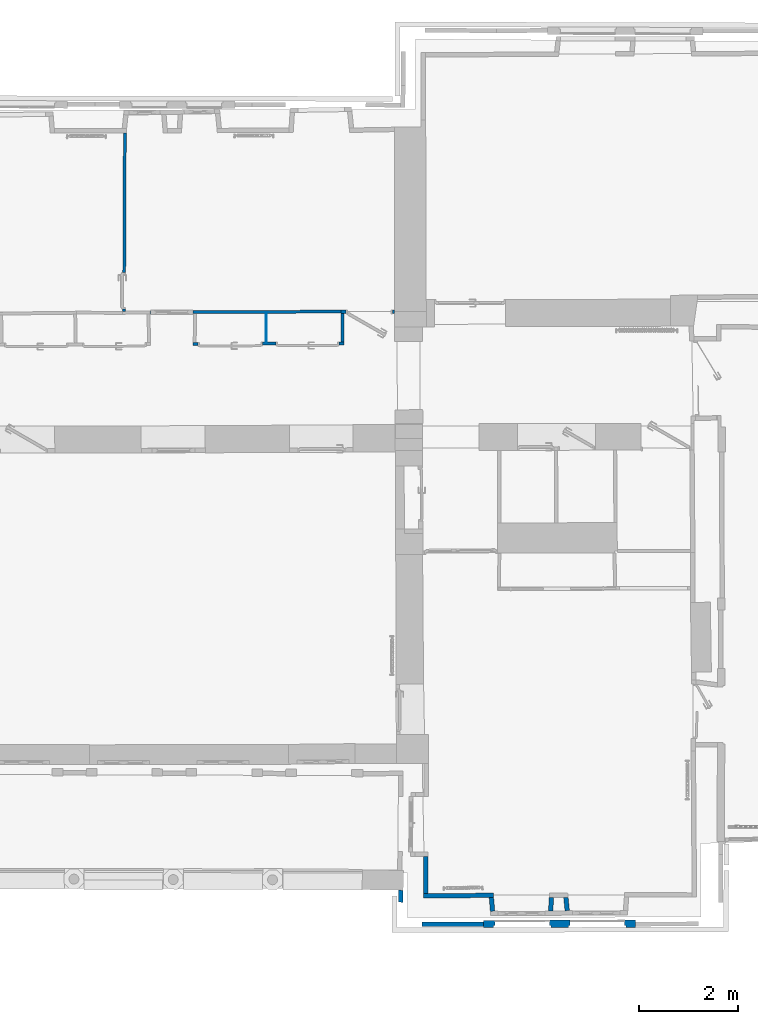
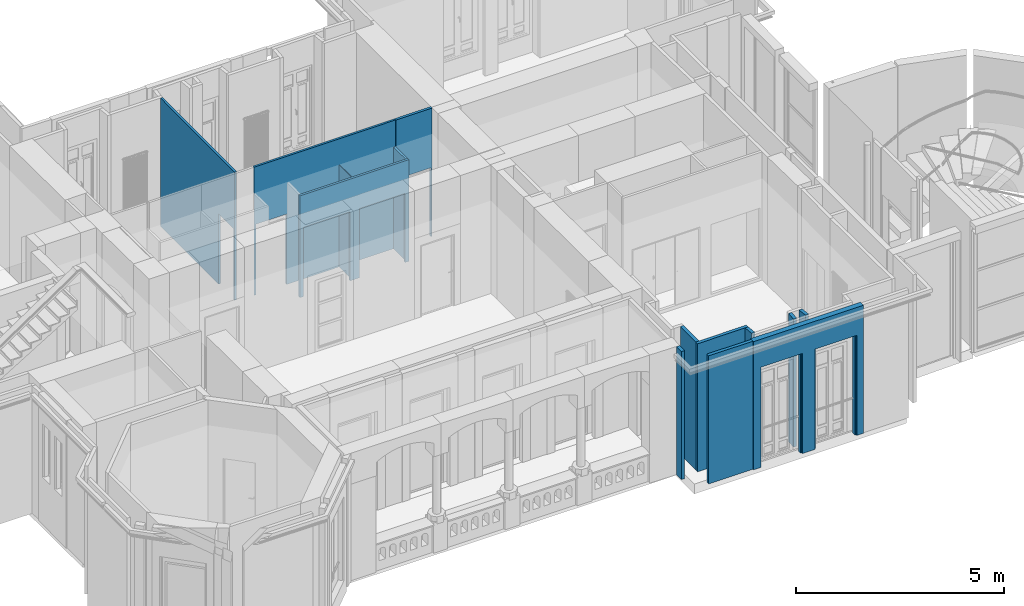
# One storey, part 10 of 66: 14 walls, 7 openings.
"""IFC2X3 building model written with IfcOpenShell, lengths in centimetres."""

from ifc_helpers import new_model, entity, si_unit, converted_unit, direction, frame, origin, origin_with_axes, origin_2d_with_axis, place, context, subcontext, project, spatial, polyline, rectangle, outline, extrude, clip, bounded_halfspace, faceted_brep, shape, material, layer, layer_set, layer_usage, type_object, element, save


model = new_model("IFC2X3")

# Units and contexts
model_context = context("Model", 3, precision=0.0001, world=origin(), true_north=direction((0.225632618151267, 0.974212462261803, 0.0)))
body_context = subcontext(model_context, "Body", "Model", "MODEL_VIEW")
footprint_context = subcontext(model_context, "FootPrint", "Model", "MODEL_VIEW")
profile_context = subcontext(model_context, "Profile", "Model", "MODEL_VIEW")
ifc_project = project(units=[si_unit("LENGTHUNIT", "METRE", prefix="CENTI"), si_unit("AREAUNIT", "SQUARE_METRE", prefix="CENTI"), si_unit("VOLUMEUNIT", "CUBIC_METRE", prefix="CENTI"), converted_unit("PLANEANGLEUNIT", "DEGREE", entity("IfcRatioMeasure", 0.0174532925), si_unit("PLANEANGLEUNIT", "RADIAN"), dimensions=[0, 0, 0, 0, 0, 0, 0])], contexts=[model_context])

# Site, building, storey
site_placement = place(None, origin_with_axes())
site = spatial("IfcSite", under=ifc_project, at=site_placement, Name="Default Site", CompositionType="ELEMENT")
building_placement = place(site_placement, origin_with_axes())
building = spatial("IfcBuilding", under=site, at=building_placement, Name="Default Building", CompositionType="ELEMENT")
storey_placement = place(building_placement, frame((0.0, 0.0, 477.795358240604), z_axis=(0.0, 0.0, 1.0), x_axis=(1.0, 0.0, 0.0)))
storey = spatial("IfcBuildingStorey", under=building, at=storey_placement, Name="Niveau 1", CompositionType="ELEMENT", Elevation=477.795358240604)

# Walls
ifc_material = material(Name="<aucun>")
ifc_layer_1 = layer(ifc_material, 9.0)
ifc_layer_set_1 = layer_set([ifc_layer_1], Name="default")
ifc_layer_usage_1 = layer_usage(ifc_layer_set_1, "AXIS2", "POSITIVE", -4.5)
wall_type_1 = type_object("IfcWallType", Name="default 90", PredefinedType="NOTDEFINED", material=ifc_layer_set_1)
wall_1_placement = place(storey_placement, frame((547.729061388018, -1016.48681909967, 0.0128503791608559), z_axis=(0.0, 0.0, 1.0), x_axis=(0.0629303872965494, 0.99801791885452, 0.0)))
element("IfcWallStandardCase", 1, at=wall_1_placement, inside=storey, type_object=wall_type_1, material=ifc_layer_usage_1, Name="Enveloppe 776368", context=body_context, shape_type="SweptSolid", body=[
    extrude(outline(polyline([(-0.0638673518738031, 4.50000000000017), (0.544240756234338, -4.4999999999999), (27.6058031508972, -4.4999999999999), (26.9976950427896, 4.50000000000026), (-0.0638673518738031, 4.50000000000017)])), frame((0.0, 0.0, 1.77635683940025e-13), z_axis=(0.0, 0.0, 1.0), x_axis=(1.0, 0.0, 0.0)), (0.0, 0.0, 1.0), 376.102165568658),
])
ifc_layer_usage_2 = layer_usage(ifc_layer_set_1, "AXIS2", "POSITIVE", -4.5)
wall_2_placement = place(storey_placement, frame((581.088580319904, -1016.52098470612, 0.0128503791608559), z_axis=(0.0, 0.0, 1.0), x_axis=(-0.0986254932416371, 0.995124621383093, 0.0)))
element("IfcWallStandardCase", 2, at=wall_2_placement, inside=storey, type_object=wall_type_1, material=ifc_layer_usage_2, Name="Enveloppe 776312", context=body_context, shape_type="SweptSolid", body=[
    extrude(outline(polyline([(27.9716388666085, 4.50000000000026), (0.851161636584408, 4.49999999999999), (-1.77635683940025e-13, -4.49999999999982), (27.1204772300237, -4.49999999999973), (27.9716388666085, 4.50000000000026)])), frame((0.0, 0.0, 8.88178419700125e-14), z_axis=(0.0, 0.0, 1.0), x_axis=(1.0, 0.0, 0.0)), (0.0, 0.0, 1.0), 376.102165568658),
])
ifc_layer_usage_3 = layer_usage(ifc_layer_set_1, "AXIS2", "POSITIVE", -4.5)
wall_3_placement = place(storey_placement, frame((296.704901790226, -981.360360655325, 0.0128503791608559), z_axis=(0.0, 0.0, 1.0), x_axis=(0.0028780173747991, 0.999995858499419, 0.0)))
element("IfcWallStandardCase", 3, at=wall_3_placement, inside=storey, type_object=wall_type_1, material=ifc_layer_usage_3, Name="Enveloppe 777076", context=body_context, shape_type="SweptSolid", body=[
    extrude(outline(polyline([(-0.0474887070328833, 4.49999999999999), (0.0188519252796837, -4.50000000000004), (74.4033617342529, -4.50000000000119), (74.4853848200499, 4.49999999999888), (-0.0474887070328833, 4.49999999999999)])), frame((0.0, 0.0, 1.77635683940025e-13), z_axis=(0.0, 0.0, 1.0), x_axis=(1.0, 0.0, 0.0)), (0.0, 0.0, 1.0), 376.102165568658),
])
ifc_layer_usage_4 = layer_usage(ifc_layer_set_1, "AXIS2", "POSITIVE", -4.5)
wall_4_placement = place(storey_placement, frame((431.078634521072, -1018.13547040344, 0.0128503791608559), z_axis=(0.0, 0.0, 1.0), x_axis=(-0.0854648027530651, 0.996341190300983, 0.0)))
element("IfcWallStandardCase", 4, at=wall_4_placement, inside=storey, type_object=wall_type_1, material=ifc_layer_usage_4, Name="Enveloppe 776051", context=body_context, shape_type="SweptSolid", body=[
    extrude(outline(polyline([(28.8232872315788, 4.50000000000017), (1.00301488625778, 4.49999999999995), (1.0030148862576, -4.50000000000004), (28.0919987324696, -4.49999999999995), (28.8232872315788, 4.50000000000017)])), frame((0.0, 0.0, 8.88178419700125e-14), z_axis=(0.0, 0.0, 1.0), x_axis=(1.0, 0.0, 0.0)), (0.0, 0.0, 1.0), 376.102165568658),
])
ifc_layer_usage_5 = layer_usage(ifc_layer_set_1, "AXIS2", "POSITIVE", -4.5)
wall_5_placement = place(storey_placement, frame((301.225155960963, -985.854414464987, 0.0128503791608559), z_axis=(0.0, 0.0, 1.0), x_axis=(0.999989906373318, 0.00449301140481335, 0.0)))
element("IfcWallStandardCase", 5, at=wall_5_placement, inside=storey, type_object=wall_type_1, material=ifc_layer_usage_5, Name="Enveloppe 776015", context=body_context, shape_type="SweptSolid", body=[
    extrude(outline(polyline([(-9.06658513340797, -4.49999999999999), (131.917249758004, -4.50000000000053), (131.185961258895, 4.49999999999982), (-9.00024450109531, 4.49999999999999), (-9.06658513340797, -4.49999999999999)])), frame((0.0, 0.0, 8.88178419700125e-14), z_axis=(0.0, 0.0, 1.0), x_axis=(1.0, 0.0, 0.0)), (0.0, 0.0, 1.0), 376.102165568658),
])

# Wall, opening
ifc_layer_2 = layer(ifc_material, 6.0)
ifc_layer_set_2 = layer_set([ifc_layer_2], Name="default")
ifc_layer_usage_6 = layer_usage(ifc_layer_set_2, "AXIS2", "POSITIVE", -3.0)
wall_type_2 = type_object("IfcWallType", Name="default 60", PredefinedType="NOTDEFINED", material=ifc_layer_set_2)
wall_6_placement = place(storey_placement, frame((-309.806494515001, 188.988568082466, 0.0128503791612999), z_axis=(0.0, 0.0, 1.0), x_axis=(0.00438806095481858, 0.999990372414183, 0.0)))
wall_6 = element("IfcWallStandardCase", 6, at=wall_6_placement, inside=storey, type_object=wall_type_2, material=ifc_layer_usage_6, Name="Enveloppe 92513", context=body_context, shape_type="SweptSolid", body=[
    extrude(outline(polyline([(-0.0192172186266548, 2.99999999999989), (-0.0096393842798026, 0.00960856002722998), (0.0595995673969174, -3.00000000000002), (358.531062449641, -2.99999999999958), (358.492070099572, 3.00000000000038), (-0.0192172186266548, 2.99999999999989)])), origin_with_axes(), (0.0, 0.0, 1.0), 376.102165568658),
])
opening_1_placement = place(wall_6_placement, frame((4.77238262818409, 0.0, 0.0), z_axis=(0.0, 0.0, 1.0), x_axis=(1.0, 1.24553145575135e-15, 0.0)))
cartesian_point_1 = entity("IfcCartesianPoint", [0.0, 0.0, 207.0])
cartesian_point_2 = entity("IfcCartesianPoint", [73.0410630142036, 2.99999999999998])
element("IfcOpeningElement", 7, at=opening_1_placement, cuts=wall_6, Name="4294966335_11", ObjectType="Opening", shapes=[
    shape(body_context, "Body", "SweptSolid", [extrude(outline(polyline([(0.0, 207.0), (0.0, 0.0), (73.0410630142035, 0.0), (73.0410630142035, 207.0), (0.0, 207.0)])), frame((0.0, 13.0, 0.0), z_axis=(0.0, -1.0, 0.0), x_axis=(1.0, 0.0, 0.0)), (0.0, 0.0, 1.0), 26.0)]),
    shape(profile_context, "Profile", "GeometricCurveSet", [entity("IfcGeometricCurveSet", [entity("IfcPolyline", [cartesian_point_1, entity("IfcCartesianPoint", [0.0, 0.0, 0.0]), entity("IfcCartesianPoint", [73.0410630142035, -4.44089209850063e-14, 0.0]), entity("IfcCartesianPoint", [73.0410630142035, -4.44089209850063e-14, 207.0]), cartesian_point_1])])]),
    shape(footprint_context, "FootPrint", "GeometricCurveSet", [entity("IfcGeometricCurveSet", [entity("IfcPolyline", [cartesian_point_2, entity("IfcCartesianPoint", [6.66133814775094e-14, 2.99999999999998]), entity("IfcCartesianPoint", [-2.22044604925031e-14, -2.99999999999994]), entity("IfcCartesianPoint", [73.0410630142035, -2.99999999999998]), cartesian_point_2])])]),
])

# Wall
ifc_layer_usage_7 = layer_usage(ifc_layer_set_2, "AXIS2", "POSITIVE", -3.0)
wall_7_placement = place(storey_placement, frame((129.375968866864, 121.405822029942, 0.0128503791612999), z_axis=(0.0, 0.0, 1.0), x_axis=(-0.000133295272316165, 0.999999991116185, 0.0)))
element("IfcWallStandardCase", 8, at=wall_7_placement, inside=storey, type_object=wall_type_2, material=ifc_layer_usage_7, Name="Enveloppe 104149", context=body_context, shape_type="SweptSolid", body=[
    extrude(outline(polyline([(5.97754900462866, 3.00000000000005), (6.0000421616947, -3.0), (63.0059550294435, -2.99999999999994), (62.9834618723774, 3.00000000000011), (5.97754900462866, 3.00000000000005)])), frame((0.0, 0.0, -2.66453525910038e-13), z_axis=(0.0, 0.0, 1.0), x_axis=(1.0, 0.0, 0.0)), (0.0, 0.0, 1.0), 298.702165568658),
])

# Wall, openings
ifc_layer_usage_8 = layer_usage(ifc_layer_set_2, "AXIS2", "POSITIVE", -3.0)
wall_8_placement = place(storey_placement, frame((-166.397739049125, 123.246358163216, 0.0128503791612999), z_axis=(0.0, 0.0, 1.0), x_axis=(0.99999246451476, 0.00388212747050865, 0.0)))
wall_8 = element("IfcWallStandardCase", 9, at=wall_8_placement, inside=storey, type_object=wall_type_2, material=ifc_layer_usage_8, Name="Enveloppe 104140", context=body_context, shape_type="SweptSolid", body=[
    extrude(outline(polyline([(141.56208561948, 2.99999999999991), (-4.52777410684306, 2.99999999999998), (-4.6616459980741, -3.0), (141.56208561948, -3.00000000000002), (298.763513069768, -2.9999968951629), (298.786805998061, 2.99999999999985), (141.56208561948, 2.99999999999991)])), frame((0.0, 0.0, -1.77635683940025e-13), z_axis=(0.0, 0.0, 1.0), x_axis=(1.0, 0.0, 0.0)), (0.0, 0.0, 1.0), 298.702165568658),
])
opening_2_placement = place(wall_8_placement, frame((161.704927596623, -5.6843418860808e-14, -3.5527136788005e-13), z_axis=(0.0, 0.0, 1.0), x_axis=(-1.0, 4.56665955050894e-16, 0.0)))
cartesian_point_3 = entity("IfcCartesianPoint", [-2.08166817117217e-14, 0.0, 203.1])
cartesian_point_4 = entity("IfcCartesianPoint", [-126.516137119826, -3.00000000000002])
element("IfcOpeningElement", 10, at=opening_2_placement, cuts=wall_8, Name="4294966401_11", ObjectType="Opening", shapes=[
    shape(body_context, "Body", "SweptSolid", [extrude(outline(polyline([(1.94289029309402e-14, 203.1), (-2.77555756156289e-15, 0.0), (126.516137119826, 0.0), (126.516137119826, 203.1), (1.94289029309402e-14, 203.1)])), frame((0.0, -13.0, 0.0), z_axis=(0.0, 1.0, 0.0), x_axis=(-1.0, 0.0, 0.0)), (0.0, 0.0, 1.0), 26.0)]),
    shape(profile_context, "Profile", "GeometricCurveSet", [entity("IfcGeometricCurveSet", [entity("IfcPolyline", [cartesian_point_3, entity("IfcCartesianPoint", [1.38777878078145e-15, 0.0, 0.0]), entity("IfcCartesianPoint", [-126.516137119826, -2.22044604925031e-14, 0.0]), entity("IfcCartesianPoint", [-126.516137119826, -2.22044604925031e-14, 203.1]), cartesian_point_3])])]),
    shape(footprint_context, "FootPrint", "GeometricCurveSet", [entity("IfcGeometricCurveSet", [entity("IfcPolyline", [cartesian_point_4, entity("IfcCartesianPoint", [2.77555756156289e-15, -3.00000000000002]), entity("IfcCartesianPoint", [0.0, 2.99999999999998]), entity("IfcCartesianPoint", [-126.516137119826, 2.99999999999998]), cartesian_point_4])])]),
])
opening_3_placement = place(wall_8_placement, frame((4.89621919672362, -1.4210854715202e-14, 2.66453525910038e-13), z_axis=(0.0, 0.0, 1.0), x_axis=(-1.0, 2.86663054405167e-16, 0.0)))
cartesian_point_5 = entity("IfcCartesianPoint", [-2.22044604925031e-14, -2.22044604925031e-14, 203.1])
cartesian_point_6 = entity("IfcCartesianPoint", [-130.0, -3.00000000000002])
element("IfcOpeningElement", 11, at=opening_3_placement, cuts=wall_8, Name="4294966399_11", ObjectType="Opening", shapes=[
    shape(body_context, "Body", "SweptSolid", [extrude(outline(polyline([(2.22044604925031e-14, 203.1), (0.0, 8.88178419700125e-14), (130.0, 8.88178419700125e-14), (130.0, 203.1), (2.22044604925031e-14, 203.1)])), frame((0.0, -13.0, 0.0), z_axis=(0.0, 1.0, 0.0), x_axis=(-1.0, 0.0, 0.0)), (0.0, 0.0, 1.0), 26.0)]),
    shape(profile_context, "Profile", "GeometricCurveSet", [entity("IfcGeometricCurveSet", [entity("IfcPolyline", [cartesian_point_5, entity("IfcCartesianPoint", [0.0, -2.22044604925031e-14, 8.88178419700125e-14]), entity("IfcCartesianPoint", [-130.0, 0.0, 8.88178419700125e-14]), entity("IfcCartesianPoint", [-130.0, 0.0, 203.1]), cartesian_point_5])])]),
    shape(footprint_context, "FootPrint", "GeometricCurveSet", [entity("IfcGeometricCurveSet", [entity("IfcPolyline", [cartesian_point_6, entity("IfcCartesianPoint", [0.0, -3.0]), entity("IfcCartesianPoint", [-2.22044604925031e-14, 2.99999999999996]), entity("IfcCartesianPoint", [-130.0, 2.99999999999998]), cartesian_point_6])])]),
])

# Wall, opening
ifc_layer_usage_9 = layer_usage(ifc_layer_set_2, "AXIS2", "POSITIVE", -3.0)
wall_9_placement = place(storey_placement, frame((-261.539767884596, 186.882996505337, 0.0128503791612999), z_axis=(0.0, 0.0, 1.0), x_axis=(0.99999246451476, 0.00388212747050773, 0.0)))
wall_9 = element("IfcWallStandardCase", 12, at=wall_9_placement, inside=storey, type_object=wall_type_2, material=ifc_layer_usage_9, Name="Enveloppe 104133", context=body_context, shape_type="Clipping", body=[
    clip(clip(clip(extrude(outline(polyline([(237.844056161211, 2.99999999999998), (236.731166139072, 3.0), (94.7283927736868, 2.99999999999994), (91.6607101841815, 2.99999999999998), (0.106990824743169, 2.99999999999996), (0.106990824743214, -3.00000000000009), (91.6607101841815, -3.00000000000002), (94.7283927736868, -3.00000000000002), (236.731166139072, -2.99999999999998), (237.844056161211, -3.00000000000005), (393.79852686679, -2.99999999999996), (393.79852686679, 3.0), (237.844056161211, 2.99999999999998)])), frame((0.0, 0.0, -2.66453525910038e-13), z_axis=(0.0, 0.0, 1.0), x_axis=(1.0, 0.0, 0.0)), (0.0, 0.0, 1.0), 376.102165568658), bounded_halfspace(frame((0.106990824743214, -3.00000000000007, 298.702165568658), z_axis=(0.0, 0.0, 1.0), x_axis=(0.99990809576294, 0.0135572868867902, 0.0)), True, frame((0.106990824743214, -3.00000000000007, 298.702165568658), z_axis=(0.0, 0.0, 1.0), x_axis=(1.0, 0.0, 0.0)), polyline([(0.0, -2.22044604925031e-14), (3.90215198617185, 0.0529074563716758), (0.0, -2.22044604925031e-14)]))), bounded_halfspace(frame((4.00914281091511, -2.94709254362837, 298.702165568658), z_axis=(0.0, 0.0, 1.0), x_axis=(-0.999908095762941, -0.0135572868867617, 0.0)), True, frame((4.00914281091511, -2.94709254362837, 298.702165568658), z_axis=(0.0, 0.0, 1.0), x_axis=(1.0, 0.0, 0.0)), polyline([(-3.9021519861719, -0.0529074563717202), (-3.90215198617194, 5.94709254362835), (4.44089209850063e-14, 5.94709254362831), (-4.44089209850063e-14, -2.22044604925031e-14), (-3.9021519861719, -0.0529074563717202)]))), bounded_halfspace(frame((387.798484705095, 3.0, 298.702165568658), z_axis=(0.0, 0.0, 1.0), x_axis=(1.0, 3.39875697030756e-15, 0.0)), True, frame((387.798484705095, 3.0, 298.702165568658), z_axis=(0.0, 0.0, 1.0), x_axis=(1.0, 0.0, 0.0)), polyline([(0.0, -5.99999999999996), (0.0, -2.22044604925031e-14), (6.00004216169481, 0.0), (6.00004216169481, -5.99999999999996), (0.0, -5.99999999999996)]))),
])
opening_4_placement = place(wall_9_placement, frame((4.98291634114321, 0.0, -2.66453525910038e-13), z_axis=(0.0, 0.0, 1.0), x_axis=(-1.0, -2.09034178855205e-16, 0.0)))
cartesian_point_7 = entity("IfcCartesianPoint", [0.0, 0.0, 207.0])
cartesian_point_8 = entity("IfcCartesianPoint", [-85.6824034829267, -3.0])
element("IfcOpeningElement", 13, at=opening_4_placement, cuts=wall_9, Name="4294966428_11", ObjectType="Opening", shapes=[
    shape(body_context, "Body", "SweptSolid", [extrude(outline(polyline([(0.0, 207.0), (0.0, 8.88178419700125e-14), (85.6824034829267, 8.88178419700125e-14), (85.6824034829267, 207.0), (0.0, 207.0)])), frame((0.0, -13.0, 0.0), z_axis=(0.0, 1.0, 0.0), x_axis=(-1.0, 0.0, 0.0)), (0.0, 0.0, 1.0), 26.0)]),
    shape(profile_context, "Profile", "GeometricCurveSet", [entity("IfcGeometricCurveSet", [entity("IfcPolyline", [cartesian_point_7, entity("IfcCartesianPoint", [0.0, 0.0, 8.88178419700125e-14]), entity("IfcCartesianPoint", [-85.6824034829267, 0.0, 8.88178419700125e-14]), entity("IfcCartesianPoint", [-85.6824034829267, 0.0, 207.0]), cartesian_point_7])])]),
    shape(footprint_context, "FootPrint", "GeometricCurveSet", [entity("IfcGeometricCurveSet", [entity("IfcPolyline", [cartesian_point_8, entity("IfcCartesianPoint", [0.0, -2.99999999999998]), entity("IfcCartesianPoint", [0.0, 3.0]), entity("IfcCartesianPoint", [-85.6824034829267, 3.0]), cartesian_point_8])])]),
])

ifc_layer_3 = layer(ifc_material, 7.0)
ifc_layer_set_3 = layer_set([ifc_layer_3], Name="default")
ifc_layer_usage_10 = layer_usage(ifc_layer_set_3, "AXIS2", "POSITIVE", -3.5)
wall_type_3 = type_object("IfcWallType", Name="default 70", PredefinedType="NOTDEFINED", material=ifc_layer_set_3)
wall_10_placement = place(storey_placement, frame((132.357731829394, 187.912164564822, 0.0128503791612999), z_axis=(0.0, 0.0, 1.0), x_axis=(0.99999246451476, 0.00388212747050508, 0.0)))
wall_10 = element("IfcWallStandardCase", 14, at=wall_10_placement, inside=storey, type_object=wall_type_3, material=ifc_layer_usage_10, Name="Enveloppe 92734", context=body_context, shape_type="Clipping", body=[
    clip(clip(extrude(outline(polyline([(-6.10004216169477, 3.49999999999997), (-6.10004216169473, -2.49999999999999), (-6.00004366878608, -2.50038820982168), (-6.00392431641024, -3.49999948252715), (101.25677984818, -3.50007997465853), (101.262698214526, 3.50000000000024), (-6.10004216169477, 3.49999999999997)])), frame((0.0, 0.0, -1.77635683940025e-13), z_axis=(0.0, 0.0, 1.0), x_axis=(1.0, 0.0, 0.0)), (0.0, 0.0, 1.0), 376.102165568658), bounded_halfspace(frame((-6.00004216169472, -2.49999999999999, 298.702165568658), z_axis=(0.0, 0.0, -1.0), x_axis=(1.0, -2.97635180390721e-15, 0.0)), True, frame((-6.00004216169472, -2.49999999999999, 298.702165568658), z_axis=(0.0, 0.0, 1.0), x_axis=(1.0, 0.0, 0.0)), polyline([(-0.100000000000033, 0.0), (5.90004216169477, 0.0), (5.90004216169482, 5.99999999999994), (-0.100000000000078, 5.99999999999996), (-0.100000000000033, 0.0)]))), bounded_halfspace(frame((-6.00379102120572, -3.50000000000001, 298.702165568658), z_axis=(0.0, 0.0, -1.0), x_axis=(1.0, 3.62166893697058e-15, 0.0)), True, frame((-6.00379102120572, -3.50000000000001, 298.702165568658), z_axis=(0.0, 0.0, 1.0), x_axis=(1.0, 0.0, 0.0)), polyline([(0.0, 0.0), (6.0037910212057, 2.22044604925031e-14), (6.00379102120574, 1.00000000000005), (0.00374885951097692, 1.00000000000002), (0.0, 0.0)]))),
])
opening_5_placement = place(wall_10_placement, frame((4.45336896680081, 2.8421709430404e-14, 1.78523862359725e-13), z_axis=(0.0, 0.0, 1.0), x_axis=(-1.0, -2.82976767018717e-15, 0.0)))
cartesian_point_9 = entity("IfcCartesianPoint", [-2.22044604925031e-14, 0.0, 202.0])
cartesian_point_10 = entity("IfcCartesianPoint", [-93.0, -3.50000000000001])
element("IfcOpeningElement", 15, at=opening_5_placement, cuts=wall_10, Name="4294966333_11", ObjectType="Opening", shapes=[
    shape(body_context, "Body", "SweptSolid", [extrude(outline(polyline([(4.44089209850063e-14, 202.0), (2.22044604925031e-14, 0.0), (93.0, 0.0), (93.0, 202.0), (4.44089209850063e-14, 202.0)])), frame((0.0, -13.5, 0.0), z_axis=(0.0, 1.0, 0.0), x_axis=(-1.0, 0.0, 0.0)), (0.0, 0.0, 1.0), 27.0)]),
    shape(profile_context, "Profile", "GeometricCurveSet", [entity("IfcGeometricCurveSet", [entity("IfcPolyline", [cartesian_point_9, entity("IfcCartesianPoint", [0.0, 0.0, 0.0]), entity("IfcCartesianPoint", [-93.0, -4.44089209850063e-14, 0.0]), entity("IfcCartesianPoint", [-93.0, -4.44089209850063e-14, 202.0]), cartesian_point_9])])]),
    shape(footprint_context, "FootPrint", "GeometricCurveSet", [entity("IfcGeometricCurveSet", [entity("IfcPolyline", [cartesian_point_10, entity("IfcCartesianPoint", [-2.22044604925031e-14, -3.49999999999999]), entity("IfcCartesianPoint", [0.0, 3.49999999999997]), entity("IfcCartesianPoint", [-93.0, 3.49999999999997]), cartesian_point_10])])]),
])

# Walls
ifc_layer_usage_11 = layer_usage(ifc_layer_set_1, "AXIS2", "POSITIVE", -4.5)
wall_type_4 = type_object("IfcWallType", Name="default 90", PredefinedType="NOTDEFINED", material=ifc_layer_set_1)
wall_11_placement = place(storey_placement, frame((289.515447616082, -1043.06085269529, 0.0128503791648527), z_axis=(0.0, 0.0, 1.0), x_axis=(0.99999978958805, 0.000648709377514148, 0.0)))
element("IfcWallStandardCase", 16, at=wall_11_placement, inside=storey, type_object=wall_type_4, material=ifc_layer_usage_11, Name="Enveloppe 424174", context=body_context, shape_type="SweptSolid", body=[
    extrude(outline(polyline([(0.0891551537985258, -4.49999999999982), (123.450979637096, -4.50000000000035), (123.438032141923, 4.49999999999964), (0.0891551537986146, 4.49999999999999), (0.0891551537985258, -4.49999999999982)])), frame((0.0, 0.0, -3.90798504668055e-12), z_axis=(0.0, 0.0, 1.0), x_axis=(1.0, 0.0, 0.0)), (0.0, 0.0, 1.0), 376.102165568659),
])
ifc_layer_usage_12 = layer_usage(ifc_layer_set_1, "AXIS2", "POSITIVE", -4.5)
wall_12_placement = place(storey_placement, frame((246.152413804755, -999.408080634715, 0.012850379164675), z_axis=(0.0, 0.0, 1.0), x_axis=(0.0259420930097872, 0.999663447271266, 0.0)))
element("IfcWallStandardCase", 17, at=wall_12_placement, inside=storey, type_object=wall_type_4, material=ifc_layer_usage_12, Name="Enveloppe 424151", context=body_context, shape_type="SweptSolid", body=[
    extrude(outline(polyline([(0.401162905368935, 4.50000000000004), (0.401162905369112, -4.49999999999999), (24.5653763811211, -4.49999999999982), (24.4782509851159, 4.50000000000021), (0.401162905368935, 4.50000000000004)])), frame((0.0, 0.0, -3.81916720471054e-12), z_axis=(0.0, 0.0, 1.0), x_axis=(1.0, 0.0, 0.0)), (0.0, 0.0, 1.0), 376.102165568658),
])

# Wall, openings
ifc_layer_4 = layer(ifc_material, 15.0)
ifc_layer_set_4 = layer_set([ifc_layer_4], Name="default")
ifc_layer_usage_13 = layer_usage(ifc_layer_set_4, "AXIS2", "POSITIVE", -7.5)
wall_type_5 = type_object("IfcWallType", Name="default 150", PredefinedType="NOTDEFINED", material=ifc_layer_set_4)
wall_13_placement = place(storey_placement, frame((412.95946631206, -1042.75981085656, 0.0128503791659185), z_axis=(0.0, 0.0, 1.0), x_axis=(0.999997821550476, 0.00208731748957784, 0.0)))
wall_13 = element("IfcWallStandardCase", 18, at=wall_13_placement, inside=storey, type_object=wall_type_5, material=ifc_layer_usage_13, Name="Enveloppe 426248", context=body_context, shape_type="SweptSolid", body=[
    extrude(rectangle(XDim=305.184011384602, YDim=15.0, at=origin_2d_with_axis()), frame((152.592005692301, -7.105427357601e-13, -1.77635683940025e-13), z_axis=(0.0, 0.0, 1.0), x_axis=(1.0, -3.92004137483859e-15, 0.0)), (0.0, 0.0, 1.0), 376.102165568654),
])
opening_6_placement = place(wall_13_placement, frame((170.718390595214, -6.82121026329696e-13, -2.65565347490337e-13), z_axis=(0.0, 0.0, 1.0), x_axis=(-1.0, 3.92047505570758e-15, 0.0)))
cartesian_point_11 = entity("IfcCartesianPoint", [0.0, 1.77635683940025e-13, 294.388514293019])
cartesian_point_12 = entity("IfcCartesianPoint", [-115.984765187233, -7.49999999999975])
element("IfcOpeningElement", 19, at=opening_6_placement, cuts=wall_13, Name="Baie 442299", ObjectType="Opening", shapes=[
    shape(body_context, "Body", "Brep", [faceted_brep([(-3.00001518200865, -27.500014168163, 294.38851341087), (-112.984747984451, -27.5000141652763, 294.38851341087), (-112.984747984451, -27.5000141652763, -1.92276798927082e-05), (-3.00001518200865, -27.500014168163, -1.92276798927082e-05), (-7.63241470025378e-06, 27.4999662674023, -1.92276798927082e-05), (-115.984747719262, 27.4999662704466, -1.92276798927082e-05), (-115.984747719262, 27.4999662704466, 294.38851341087), (-7.63241470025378e-06, 27.4999662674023, 294.38851341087), (-3.00001518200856, -27.500014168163, -1.92276798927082e-05), (-3.0000151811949, 3.49999995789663, -1.92276798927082e-05), (-3.00001518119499, 3.49999995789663, 294.38851341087), (-3.00001511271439, 3.49999995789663, 294.38851341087), (-3.00001511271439, 3.49999995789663, -1.92276798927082e-05), (1.24708254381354e-05, 3.49999995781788, -1.92276798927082e-05), (1.24708254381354e-05, 3.49999995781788, 294.38851341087), (1.24708254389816e-05, 3.50003219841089, 294.38851341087), (1.24708254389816e-05, 3.50003219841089, -1.92276798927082e-05), (1.24714553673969e-05, 27.4999662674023, -1.92276798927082e-05), (1.24714553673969e-05, 27.4999662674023, 294.38851341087), (-112.984747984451, -27.499990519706, -1.92276798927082e-05), (-112.984747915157, 3.50002360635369, -1.92276798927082e-05), (-115.984775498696, 3.49999136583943, -1.92276798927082e-05), (-115.984747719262, 27.500020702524, -1.92276798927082e-05), (-112.984747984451, -27.499990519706, 294.38851341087), (-112.984747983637, 3.50002360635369, 294.38851341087), (-112.984747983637, 3.50002360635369, -1.92276798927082e-05), (-112.984747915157, 3.50002360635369, 294.38851341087), (-115.984775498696, 3.50002360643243, 294.38851341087), (-115.984775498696, 3.50002360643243, -1.92276798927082e-05), (-115.984775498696, 3.49999136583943, 294.38851341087), (-115.984775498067, 27.500020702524, 294.38851341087), (-115.984775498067, 27.500020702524, -1.92276798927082e-05), (-115.984747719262, 27.500020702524, 294.38851341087)], [[[0, 1, 2, 3]], [[4, 5, 6, 7]], [[0, 8, 9, 10]], [[11, 12, 13, 14]], [[15, 16, 17, 18]], [[3, 19, 20, 21, 22, 4, 16, 12]], [[19, 23, 24, 25]], [[20, 26, 27, 28]], [[21, 29, 30, 31]], [[11, 15, 7, 32, 29, 26, 23, 0]]])]),
    shape(profile_context, "Profile", "GeometricCurveSet", [entity("IfcGeometricCurveSet", [entity("IfcPolyline", [cartesian_point_11, entity("IfcCartesianPoint", [0.0, 1.77635683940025e-13, -8.88178419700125e-14]), entity("IfcCartesianPoint", [-115.984765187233, 1.77635683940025e-13, -8.88178419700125e-14]), entity("IfcCartesianPoint", [-115.984765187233, 1.77635683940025e-13, 294.388514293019]), cartesian_point_11])])]),
    shape(footprint_context, "FootPrint", "GeometricCurveSet", [entity("IfcGeometricCurveSet", [entity("IfcPolyline", [cartesian_point_12, entity("IfcCartesianPoint", [0.0, -7.49999999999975]), entity("IfcCartesianPoint", [-8.88178419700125e-14, 7.50000000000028]), entity("IfcCartesianPoint", [-115.984765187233, 7.50000000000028]), cartesian_point_12])])]),
])
opening_7_placement = place(wall_13_placement, frame((19.8505474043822, -2.27373675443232e-13, -2.65565347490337e-13), z_axis=(0.0, 0.0, 1.0), x_axis=(-1.0, 3.92047505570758e-15, 0.0)))
cartesian_point_13 = entity("IfcCartesianPoint", [0.0, 0.0, 294.085052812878])
cartesian_point_14 = entity("IfcCartesianPoint", [-115.984765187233, -7.49999999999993])
element("IfcOpeningElement", 20, at=opening_7_placement, cuts=wall_13, Name="Baie 442298", ObjectType="Opening", shapes=[
    shape(body_context, "Body", "Brep", [faceted_brep([(-3.00001988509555, -27.5000199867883, 294.085054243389), (-112.984752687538, -27.5000199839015, 294.085054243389), (-112.984752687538, -27.5000199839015, -1.92276798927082e-05), (-3.00001988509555, -27.5000199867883, -1.92276798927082e-05), (-1.2335501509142e-05, 27.4999604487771, -1.92276798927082e-05), (-115.984752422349, 27.4999604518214, -1.92276798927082e-05), (-115.984752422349, 27.4999604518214, 294.085054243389), (-1.2335501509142e-05, 27.4999604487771, 294.085054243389), (-3.00001988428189, 3.4999941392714, -1.92276798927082e-05), (-3.00001988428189, 3.4999941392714, 294.085054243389), (-3.0000198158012, 3.4999941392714, 294.085054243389), (-3.0000198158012, 3.4999941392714, -1.92276798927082e-05), (7.76773862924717e-06, 3.49999413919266, -1.92276798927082e-05), (7.76773862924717e-06, 3.49999413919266, 294.085054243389), (7.76773863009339e-06, 3.50002637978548, 294.085054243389), (7.76773863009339e-06, 3.50002637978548, -1.92276798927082e-05), (7.76836855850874e-06, 27.4999604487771, -1.92276798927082e-05), (7.76836855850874e-06, 27.4999604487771, 294.085054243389), (-112.984752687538, -27.499996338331, -1.92276798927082e-05), (-112.984752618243, 3.50001778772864, -1.92276798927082e-05), (-115.984780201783, 3.49998554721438, -1.92276798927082e-05), (-115.984752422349, 27.5000148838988, -1.92276798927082e-05), (-112.984752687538, -27.499996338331, 294.085054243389), (-112.984752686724, 3.50001778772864, 294.085054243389), (-112.984752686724, 3.50001778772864, -1.92276798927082e-05), (-112.984752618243, 3.50001778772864, 294.085054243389), (-115.984780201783, 3.50001778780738, 294.085054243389), (-115.984780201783, 3.50001778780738, -1.92276798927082e-05), (-115.984780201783, 3.49998554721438, 294.085054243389), (-115.984780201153, 27.5000148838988, 294.085054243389), (-115.984780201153, 27.5000148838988, -1.92276798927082e-05), (-115.984752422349, 27.5000148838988, 294.085054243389)], [[[0, 1, 2, 3]], [[4, 5, 6, 7]], [[0, 3, 8, 9]], [[10, 11, 12, 13]], [[14, 15, 16, 17]], [[3, 18, 19, 20, 21, 4, 15, 11]], [[18, 22, 23, 24]], [[19, 25, 26, 27]], [[20, 28, 29, 30]], [[10, 14, 7, 31, 28, 25, 22, 0]]])]),
    shape(profile_context, "Profile", "GeometricCurveSet", [entity("IfcGeometricCurveSet", [entity("IfcPolyline", [cartesian_point_13, entity("IfcCartesianPoint", [0.0, 0.0, -8.88178419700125e-14]), entity("IfcCartesianPoint", [-115.984765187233, 0.0, -8.88178419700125e-14]), entity("IfcCartesianPoint", [-115.984765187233, 0.0, 294.085052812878]), cartesian_point_13])])]),
    shape(footprint_context, "FootPrint", "GeometricCurveSet", [entity("IfcGeometricCurveSet", [entity("IfcPolyline", [cartesian_point_14, entity("IfcCartesianPoint", [8.88178419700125e-14, -7.50000000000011]), entity("IfcCartesianPoint", [0.0, 7.49999999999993]), entity("IfcCartesianPoint", [-115.984765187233, 7.49999999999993]), cartesian_point_14])])]),
])

# Wall
ifc_layer_5 = layer(ifc_material, 2.0)
ifc_layer_set_5 = layer_set([ifc_layer_5], Name="default")
ifc_layer_usage_14 = layer_usage(ifc_layer_set_5, "AXIS2", "POSITIVE", -1.0)
wall_type_6 = type_object("IfcWallType", Name="default 20", PredefinedType="NOTDEFINED", material=ifc_layer_set_5)
wall_14_placement = place(storey_placement, frame((-23.7226061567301, 126.795530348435, 0.0128503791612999), z_axis=(0.0, 0.0, 1.0), x_axis=(0.000411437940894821, 0.999999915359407, 0.0)))
element("IfcWallStandardCase", 21, at=wall_14_placement, inside=storey, type_object=wall_type_6, material=ifc_layer_usage_14, Name="Enveloppe 104172", context=body_context, shape_type="SweptSolid", body=[
    extrude(outline(polyline([(0.000444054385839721, 1.0), (0.00903125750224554, -1.00000000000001), (58.0150782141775, -1.00000000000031), (58.0064910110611, 0.999999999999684), (0.000444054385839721, 1.0)])), frame((0.0, 0.0, -8.88178419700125e-14), z_axis=(0.0, 0.0, 1.0), x_axis=(1.0, 0.0, 0.0)), (0.0, 0.0, 1.0), 298.702165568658),
])

save(model, "model.ifc")
